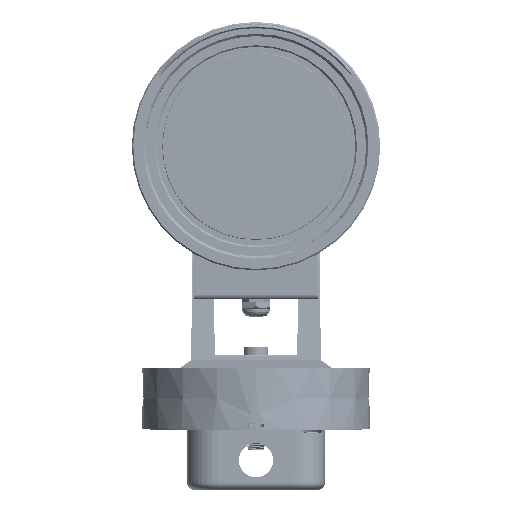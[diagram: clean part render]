
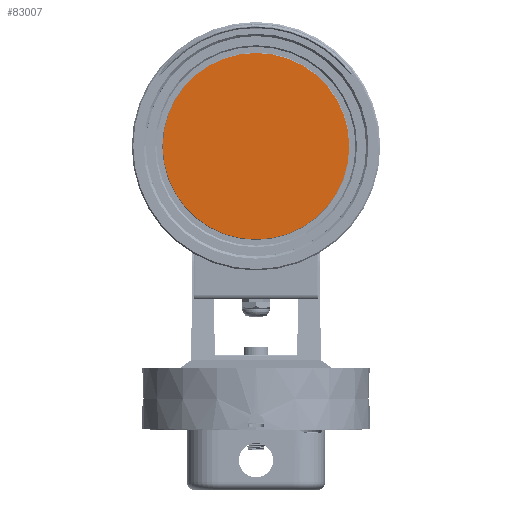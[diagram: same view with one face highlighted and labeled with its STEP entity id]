
A CAD part, front view. The second image highlights one B-rep face of the part: STEP entity #83007.
In plain terms, the highlighted planar face has unit normal (0, -1, 0).
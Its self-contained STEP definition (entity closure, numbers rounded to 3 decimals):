
#82802=CARTESIAN_POINT('',(0.,-3.,0.));
#82803=DIRECTION('',(0.,-1.,0.));
#82804=DIRECTION('',(0.,0.,1.));
#82805=AXIS2_PLACEMENT_3D('',#82802,#82803,#82804);
#82807=CARTESIAN_POINT('',(0.,-3.,0.));
#82808=DIRECTION('',(0.,-1.,0.));
#82809=DIRECTION('',(0.,0.,-1.));
#82810=AXIS2_PLACEMENT_3D('',#82807,#82808,#82809);
#82850=CARTESIAN_POINT('',(0.,-3.,60.95));
#82851=CARTESIAN_POINT('',(0.,-3.,-60.95));
#82852=VERTEX_POINT('',#82850);
#82853=VERTEX_POINT('',#82851);
#82998=CARTESIAN_POINT('',(0.,-3.,0.));
#82999=DIRECTION('',(0.,1.,0.));
#83000=DIRECTION('',(0.,0.,1.));
#83001=AXIS2_PLACEMENT_3D('',#82998,#82999,#83000);
#83002=PLANE('',#83001);
#83003=ORIENTED_EDGE('',*,*,#82980,.F.);
#83004=ORIENTED_EDGE('',*,*,#82990,.F.);
#83005=EDGE_LOOP('',(#83003,#83004));
#83006=FACE_OUTER_BOUND('',#83005,.F.);
#83007=ADVANCED_FACE('',(#83006),#83002,.F.);
#82806=CIRCLE('',#82805,60.95);
#82811=CIRCLE('',#82810,60.95);
#82980=EDGE_CURVE('',#82852,#82853,#82806,.T.);
#82990=EDGE_CURVE('',#82853,#82852,#82811,.T.);
